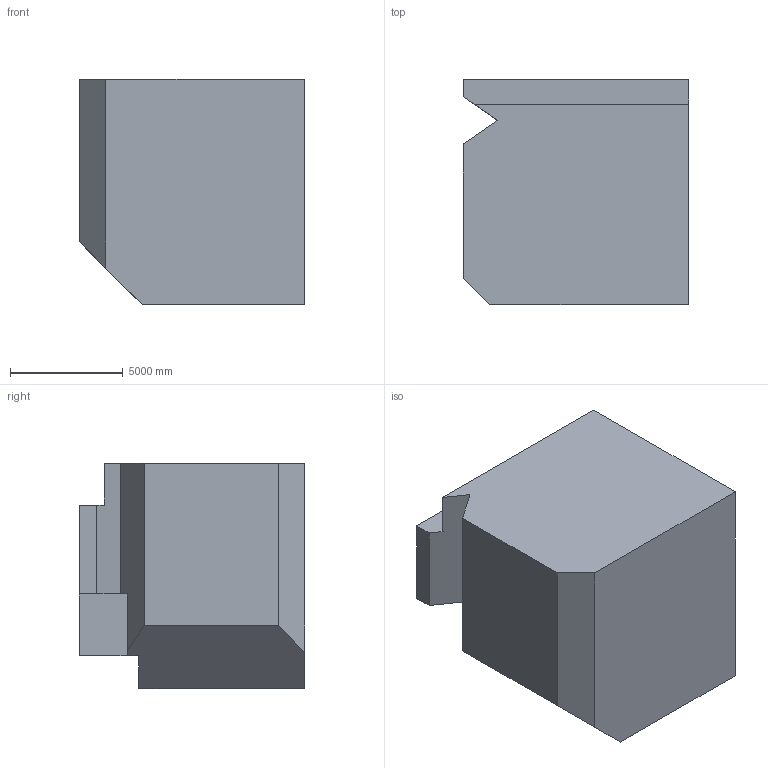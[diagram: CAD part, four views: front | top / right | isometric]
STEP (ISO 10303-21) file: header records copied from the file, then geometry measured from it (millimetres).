
FILE_DESCRIPTION (( 'STEP AP203' ), '1' );
FILE_NAME ('1609.STEP', '2022-08-18T16:08:16', ( 'user' ), ( '' ), 'SwSTEP 2.0', 'SolidWorks 2021', '' );
FILE_SCHEMA (( 'CONFIG_CONTROL_DESIGN' ));
Length unit declared in the file: centimetre
Products named in the file (1): 1609
Bounding box: 10000 x 10000 x 10000 mm (x, y, z)
Volume: 840584784675 mm3; surface area: 570055399.1 mm2
Topology: 1 solids, 1 shells, 22 faces, 59 edges, 39 vertices
Faces by surface type: plane 21, cylinder 1
Entity records: 754 total; most frequent: CARTESIAN_POINT 121, ORIENTED_EDGE 118, DIRECTION 107, EDGE_CURVE 59, LINE 57, VECTOR 57, VERTEX_POINT 39, AXIS2_PLACEMENT_3D 25
